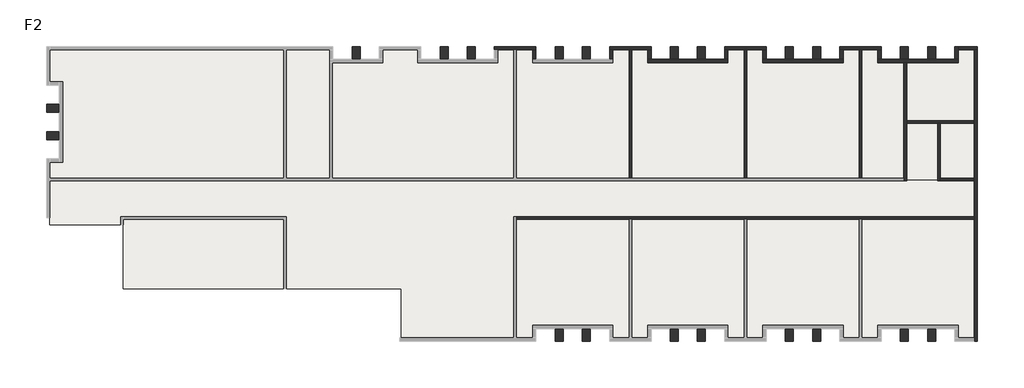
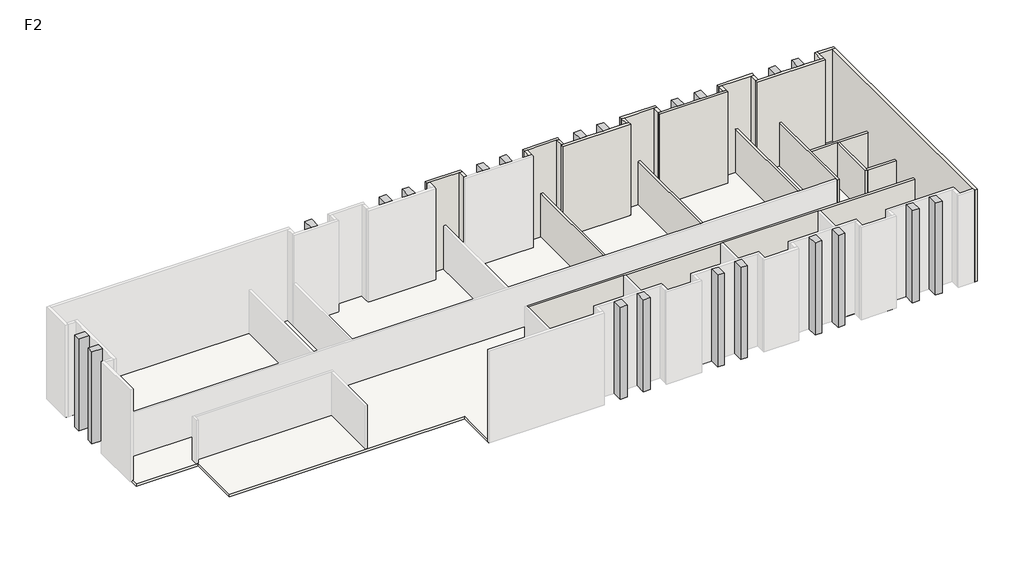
# One storey, part 2 of 2: 25 walls, 21 columns, 4 slabs.
"""IFC4 building model written with IfcOpenShell, lengths in millimetres."""

from ifc_helpers import new_model, si_unit, frame, origin, place, context, project, spatial, polyline, outline, extrude, faceted_brep, element, save

model = new_model("IFC4")

# Units and contexts
model_context = context("Model", 3, world=origin())
ifc_project = project(units=[si_unit("LENGTHUNIT", "METRE", prefix="MILLI")], contexts=[model_context])

# Site, building, storey
site = spatial("IfcSite", under=ifc_project)
building = spatial("IfcBuilding", under=site)
storey = spatial("IfcBuildingStorey", under=building, Name="F2", Elevation=3600.0)

# Columns
placement = place(None, origin())
element("IfcColumn", 1, ObjectType="矩形建筑柱 : 500 x 1000 mm", at=placement, inside=storey, context=model_context, shape_type="SweptSolid", body=[
    extrude(outline(polyline([(-27230.2182017, -7281.7926211), (-27230.2182017, -6781.7926211), (-26440.2182017, -6781.7926211), (-26440.2182017, -7281.7926211), (-27230.2182017, -7281.7926211)])), frame((0.0, 0.0, 3600.0), z_axis=(0.0, 0.0, 1.0), x_axis=(1.0, 0.0, 0.0)), (0.0, 0.0, 1.0), 7200.0),
])
element("IfcColumn", 2, ObjectType="矩形建筑柱 : 500 x 1000 mm", at=placement, inside=storey, context=model_context, shape_type="SweptSolid", body=[
    extrude(outline(polyline([(-27230.2182017, -8981.7926211), (-27230.2182017, -8481.7926211), (-26440.2182017, -8481.7926211), (-26440.2182017, -8981.7926211), (-27230.2182017, -8981.7926211)])), frame((0.0, 0.0, 3600.0), z_axis=(0.0, 0.0, 1.0), x_axis=(1.0, 0.0, 0.0)), (0.0, 0.0, 1.0), 7200.0),
])
element("IfcColumn", 3, ObjectType="矩形建筑柱 : 500 x 1000 mm", at=placement, inside=storey, context=model_context, shape_type="SweptSolid", body=[
    extrude(outline(polyline([(26184.7817983, -3166.7926211), (26684.7817983, -3166.7926211), (26684.7817983, -3956.7926211), (26184.7817983, -3956.7926211), (26184.7817983, -3166.7926211)])), frame((0.0, 0.0, 3600.0), z_axis=(0.0, 0.0, 1.0), x_axis=(1.0, 0.0, 0.0)), (0.0, 0.0, 1.0), 7200.0),
])
element("IfcColumn", 4, ObjectType="矩形建筑柱 : 500 x 1000 mm", at=placement, inside=storey, context=model_context, shape_type="SweptSolid", body=[
    extrude(outline(polyline([(27884.7817983, -3166.7926211), (28384.7817983, -3166.7926211), (28384.7817983, -3956.7926211), (27884.7817983, -3956.7926211), (27884.7817983, -3166.7926211)])), frame((0.0, 0.0, 3600.0), z_axis=(0.0, 0.0, 1.0), x_axis=(1.0, 0.0, 0.0)), (0.0, 0.0, 1.0), 7200.0),
])
element("IfcColumn", 5, ObjectType="矩形建筑柱 : 500 x 1000 mm", at=placement, inside=storey, context=model_context, shape_type="SweptSolid", body=[
    extrude(outline(polyline([(18984.7817983, -3166.7926211), (19484.7817983, -3166.7926211), (19484.7817983, -3956.7926211), (18984.7817983, -3956.7926211), (18984.7817983, -3166.7926211)])), frame((0.0, 0.0, 3600.0), z_axis=(0.0, 0.0, 1.0), x_axis=(1.0, 0.0, 0.0)), (0.0, 0.0, 1.0), 7200.0),
])
element("IfcColumn", 6, ObjectType="矩形建筑柱 : 500 x 1000 mm", at=placement, inside=storey, context=model_context, shape_type="SweptSolid", body=[
    extrude(outline(polyline([(20684.7817983, -3166.7926211), (21184.7817983, -3166.7926211), (21184.7817983, -3956.7926211), (20684.7817983, -3956.7926211), (20684.7817983, -3166.7926211)])), frame((0.0, 0.0, 3600.0), z_axis=(0.0, 0.0, 1.0), x_axis=(1.0, 0.0, 0.0)), (0.0, 0.0, 1.0), 7200.0),
])
element("IfcColumn", 7, ObjectType="矩形建筑柱 : 500 x 1000 mm", at=placement, inside=storey, context=model_context, shape_type="SweptSolid", body=[
    extrude(outline(polyline([(11784.7817983, -3166.7926211), (12284.7817983, -3166.7926211), (12284.7817983, -3956.7926211), (11784.7817983, -3956.7926211), (11784.7817983, -3166.7926211)])), frame((0.0, 0.0, 3600.0), z_axis=(0.0, 0.0, 1.0), x_axis=(1.0, 0.0, 0.0)), (0.0, 0.0, 1.0), 7200.0),
])
element("IfcColumn", 8, ObjectType="矩形建筑柱 : 500 x 1000 mm", at=placement, inside=storey, context=model_context, shape_type="SweptSolid", body=[
    extrude(outline(polyline([(13484.7817983, -3166.7926211), (13984.7817983, -3166.7926211), (13984.7817983, -3956.7926211), (13484.7817983, -3956.7926211), (13484.7817983, -3166.7926211)])), frame((0.0, 0.0, 3600.0), z_axis=(0.0, 0.0, 1.0), x_axis=(1.0, 0.0, 0.0)), (0.0, 0.0, 1.0), 7200.0),
])
element("IfcColumn", 9, ObjectType="矩形建筑柱 : 500 x 1000 mm", at=placement, inside=storey, context=model_context, shape_type="SweptSolid", body=[
    extrude(outline(polyline([(4584.7817983, -3166.7926211), (5084.7817983, -3166.7926211), (5084.7817983, -3956.7926211), (4584.7817983, -3956.7926211), (4584.7817983, -3166.7926211)])), frame((0.0, 0.0, 3600.0), z_axis=(0.0, 0.0, 1.0), x_axis=(1.0, 0.0, 0.0)), (0.0, 0.0, 1.0), 7200.0),
])
element("IfcColumn", 10, ObjectType="矩形建筑柱 : 500 x 1000 mm", at=placement, inside=storey, context=model_context, shape_type="SweptSolid", body=[
    extrude(outline(polyline([(6284.7817983, -3166.7926211), (6784.7817983, -3166.7926211), (6784.7817983, -3956.7926211), (6284.7817983, -3956.7926211), (6284.7817983, -3166.7926211)])), frame((0.0, 0.0, 3600.0), z_axis=(0.0, 0.0, 1.0), x_axis=(1.0, 0.0, 0.0)), (0.0, 0.0, 1.0), 7200.0),
])
element("IfcColumn", 11, ObjectType="矩形建筑柱 : 500 x 1000 mm", at=placement, inside=storey, context=model_context, shape_type="SweptSolid", body=[
    extrude(outline(polyline([(-2615.2182017, -3166.7926211), (-2115.2182017, -3166.7926211), (-2115.2182017, -3956.7926211), (-2615.2182017, -3956.7926211), (-2615.2182017, -3166.7926211)])), frame((0.0, 0.0, 3600.0), z_axis=(0.0, 0.0, 1.0), x_axis=(1.0, 0.0, 0.0)), (0.0, 0.0, 1.0), 7200.0),
])
element("IfcColumn", 12, ObjectType="矩形建筑柱 : 500 x 1000 mm", at=placement, inside=storey, context=model_context, shape_type="SweptSolid", body=[
    extrude(outline(polyline([(-915.2182017, -3166.7926211), (-415.2182017, -3166.7926211), (-415.2182017, -3956.7926211), (-915.2182017, -3956.7926211), (-915.2182017, -3166.7926211)])), frame((0.0, 0.0, 3600.0), z_axis=(0.0, 0.0, 1.0), x_axis=(1.0, 0.0, 0.0)), (0.0, 0.0, 1.0), 7200.0),
])
element("IfcColumn", 13, ObjectType="矩形建筑柱 : 500 x 1000 mm", at=placement, inside=storey, context=model_context, shape_type="SweptSolid", body=[
    extrude(outline(polyline([(-8115.2182017, -3166.7926211), (-7615.2182017, -3166.7926211), (-7615.2182017, -3956.7926211), (-8115.2182017, -3956.7926211), (-8115.2182017, -3166.7926211)])), frame((0.0, 0.0, 3600.0), z_axis=(0.0, 0.0, 1.0), x_axis=(1.0, 0.0, 0.0)), (0.0, 0.0, 1.0), 7200.0),
])
element("IfcColumn", 14, ObjectType="矩形建筑柱 : 500 x 1000 mm", at=placement, inside=storey, context=model_context, shape_type="SweptSolid", body=[
    extrude(outline(polyline([(26684.7817983, -21596.7926211), (26184.7817983, -21596.7926211), (26184.7817983, -20806.7926211), (26684.7817983, -20806.7926211), (26684.7817983, -21596.7926211)])), frame((0.0, 0.0, 3600.0), z_axis=(0.0, 0.0, 1.0), x_axis=(1.0, 0.0, 0.0)), (0.0, 0.0, 1.0), 7200.0),
])
element("IfcColumn", 15, ObjectType="矩形建筑柱 : 500 x 1000 mm", at=placement, inside=storey, context=model_context, shape_type="SweptSolid", body=[
    extrude(outline(polyline([(28384.7817983, -21596.7926211), (27884.7817983, -21596.7926211), (27884.7817983, -20806.7926211), (28384.7817983, -20806.7926211), (28384.7817983, -21596.7926211)])), frame((0.0, 0.0, 3600.0), z_axis=(0.0, 0.0, 1.0), x_axis=(1.0, 0.0, 0.0)), (0.0, 0.0, 1.0), 7200.0),
])
element("IfcColumn", 16, ObjectType="矩形建筑柱 : 500 x 1000 mm", at=placement, inside=storey, context=model_context, shape_type="SweptSolid", body=[
    extrude(outline(polyline([(19484.7817983, -21596.7926211), (18984.7817983, -21596.7926211), (18984.7817983, -20806.7926211), (19484.7817983, -20806.7926211), (19484.7817983, -21596.7926211)])), frame((0.0, 0.0, 3600.0), z_axis=(0.0, 0.0, 1.0), x_axis=(1.0, 0.0, 0.0)), (0.0, 0.0, 1.0), 7200.0),
])
element("IfcColumn", 17, ObjectType="矩形建筑柱 : 500 x 1000 mm", at=placement, inside=storey, context=model_context, shape_type="SweptSolid", body=[
    extrude(outline(polyline([(21184.7817983, -21596.7926211), (20684.7817983, -21596.7926211), (20684.7817983, -20806.7926211), (21184.7817983, -20806.7926211), (21184.7817983, -21596.7926211)])), frame((0.0, 0.0, 3600.0), z_axis=(0.0, 0.0, 1.0), x_axis=(1.0, 0.0, 0.0)), (0.0, 0.0, 1.0), 7200.0),
])
element("IfcColumn", 18, ObjectType="矩形建筑柱 : 500 x 1000 mm", at=placement, inside=storey, context=model_context, shape_type="SweptSolid", body=[
    extrude(outline(polyline([(12284.7817983, -21596.7926211), (11784.7817983, -21596.7926211), (11784.7817983, -20806.7926211), (12284.7817983, -20806.7926211), (12284.7817983, -21596.7926211)])), frame((0.0, 0.0, 3600.0), z_axis=(0.0, 0.0, 1.0), x_axis=(1.0, 0.0, 0.0)), (0.0, 0.0, 1.0), 7200.0),
])
element("IfcColumn", 19, ObjectType="矩形建筑柱 : 500 x 1000 mm", at=placement, inside=storey, context=model_context, shape_type="SweptSolid", body=[
    extrude(outline(polyline([(13984.7817983, -21596.7926211), (13484.7817983, -21596.7926211), (13484.7817983, -20806.7926211), (13984.7817983, -20806.7926211), (13984.7817983, -21596.7926211)])), frame((0.0, 0.0, 3600.0), z_axis=(0.0, 0.0, 1.0), x_axis=(1.0, 0.0, 0.0)), (0.0, 0.0, 1.0), 7200.0),
])
element("IfcColumn", 20, ObjectType="矩形建筑柱 : 500 x 1000 mm", at=placement, inside=storey, context=model_context, shape_type="SweptSolid", body=[
    extrude(outline(polyline([(5084.7817983, -21596.7926211), (4584.7817983, -21596.7926211), (4584.7817983, -20806.7926211), (5084.7817983, -20806.7926211), (5084.7817983, -21596.7926211)])), frame((0.0, 0.0, 3600.0), z_axis=(0.0, 0.0, 1.0), x_axis=(1.0, 0.0, 0.0)), (0.0, 0.0, 1.0), 7200.0),
])
element("IfcColumn", 21, ObjectType="矩形建筑柱 : 500 x 1000 mm", at=placement, inside=storey, context=model_context, shape_type="SweptSolid", body=[
    extrude(outline(polyline([(6784.7817983, -21596.7926211), (6284.7817983, -21596.7926211), (6284.7817983, -20806.7926211), (6784.7817983, -20806.7926211), (6784.7817983, -21596.7926211)])), frame((0.0, 0.0, 3600.0), z_axis=(0.0, 0.0, 1.0), x_axis=(1.0, 0.0, 0.0)), (0.0, 0.0, 1.0), 7200.0),
])

# Slabs
element("IfcSlab", 22, ObjectType="綜合樓-15cm-室內", at=placement, inside=storey, context=model_context, shape_type="SweptSolid", body=[
    extrude(outline(polyline([(-27040.2182017, -14306.7926211), (-27040.2182017, -10371.7926211), (-26250.2182017, -10371.7926211), (-26250.2182017, -5391.7926211), (-27040.2182017, -5391.7926211), (-27040.2182017, -3356.7926211), (-9505.2182017, -3356.7926211), (-9505.2182017, -4146.7926211), (-6225.2182017, -4146.7926211), (-6225.2182017, -3356.7926211), (-4005.2182017, -3356.7926211), (-4005.2182017, -4146.7926211), (974.7817983, -4146.7926211), (974.7817983, -3356.7926211), (3194.7817983, -3356.7926211), (3194.7817983, -4146.7926211), (8174.7817983, -4146.7926211), (8174.7817983, -3356.7926211), (10394.7817983, -3356.7926211), (10394.7817983, -4146.7926211), (15374.7817983, -4146.7926211), (15374.7817983, -3356.7926211), (17594.7817983, -3356.7926211), (17594.7817983, -4146.7926211), (22574.7817983, -4146.7926211), (22574.7817983, -3356.7926211), (24794.7817983, -3356.7926211), (24794.7817983, -4146.7926211), (26424.7817983, -4146.7926211), (26424.7817983, -11541.7926211), (30809.7817983, -11541.7926211), (30809.7817983, -21406.7926211), (29774.7817983, -21406.7926211), (29774.7817983, -20616.7926211), (24794.7817983, -20616.7926211), (24794.7817983, -21406.7926211), (22574.7817983, -21406.7926211), (22574.7817983, -20616.7926211), (17594.7817983, -20616.7926211), (17594.7817983, -21406.7926211), (15374.7817983, -21406.7926211), (15374.7817983, -20616.7926211), (10394.7817983, -20616.7926211), (10394.7817983, -21406.7926211), (8174.7817983, -21406.7926211), (8174.7817983, -20616.7926211), (3194.7817983, -20616.7926211), (3194.7817983, -21406.7926211), (-5040.2182017, -21406.7926211), (-5040.2182017, -18306.7926211), (-22440.2182017, -18306.7926211), (-22440.2182017, -14306.7926211), (-27040.2182017, -14306.7926211)])), frame((0.0, 0.0, 3450.0), z_axis=(0.0, 0.0, 1.0), x_axis=(1.0, 0.0, 0.0)), (0.0, 0.0, 1.0), 200.0),
])
element("IfcSlab", 23, ObjectType="洗手間地版", at=placement, inside=storey, context=model_context, shape_type="SweptSolid", body=[
    extrude(outline(polyline([(28524.7817983, -7941.0130428), (28524.7817983, -11541.0130428), (26544.7817983, -11541.0130428), (26544.7817983, -7941.0130428), (28524.7817983, -7941.0130428)])), frame((0.0, 0.0, 3430.0), z_axis=(0.0, 0.0, 1.0), x_axis=(1.0, 0.0, 0.0)), (0.0, 0.0, 1.0), 200.0),
])
element("IfcSlab", 24, ObjectType="洗手間地版", at=placement, inside=storey, context=model_context, shape_type="SweptSolid", body=[
    extrude(outline(polyline([(28644.7817983, -7941.7926211), (30809.7817983, -7941.7926211), (30809.7817983, -11421.7926211), (28644.7817983, -11421.7926211), (28644.7817983, -7941.7926211)])), frame((0.0, 0.0, 3410.0), z_axis=(0.0, 0.0, 1.0), x_axis=(1.0, 0.0, 0.0)), (0.0, 0.0, 1.0), 200.0),
])
element("IfcSlab", 25, ObjectType="洗手間地版", at=placement, inside=storey, context=model_context, shape_type="SweptSolid", body=[
    extrude(outline(polyline([(29774.7817983, -4146.7926211), (29774.7817983, -3356.7926211), (30809.7817983, -3356.7926211), (30809.7817983, -7821.7926211), (26544.7817983, -7821.7926211), (26544.7817983, -4146.7926211), (29774.7817983, -4146.7926211)])), frame((0.0, 0.0, 3410.0), z_axis=(0.0, 0.0, 1.0), x_axis=(1.0, 0.0, 0.0)), (0.0, 0.0, 1.0), 200.0),
])

# Walls
element("IfcWall", 26, ObjectType="F2-F5-15cm-外牆", at=placement, inside=storey, context=model_context, shape_type="Brep", body=[
    faceted_brep([(30999.7817983, -21596.7926211, 3600.0), (30999.7817983, -3376.7926211, 3600.0), (30999.7817983, -3376.7926211, 10800.0), (30999.7817983, -21596.7926211, 10800.0), (30789.7817983, -21596.7926211, 3600.0), (30789.7817983, -21596.7926211, 10800.0), (30789.7817983, -21386.7926211, 10800.0), (30789.7817983, -3376.7926211, 10800.0), (30789.7817983, -3376.7926211, 3600.0), (30789.7817983, -7801.7926211, 3600.0), (30789.7817983, -7961.7926211, 3600.0), (30789.7817983, -11401.7926211, 3600.0), (30789.7817983, -11561.7926211, 3600.0), (30789.7817983, -13811.7926211, 3600.0), (30789.7817983, -13971.7926211, 3600.0), (30789.7817983, -21386.7926211, 3600.0)], [[[0, 1, 2, 3]], [[4, 5, 6, 7, 8, 9, 10, 11, 12, 13, 14, 15]], [[1, 0, 4, 15, 14, 13, 12, 11, 10, 9, 8]], [[3, 2, 7, 6, 5]], [[0, 3, 5, 4]], [[2, 1, 8, 7]]]),
])
element("IfcWall", 27, ObjectType="F2-F5-15cm-外牆", at=placement, inside=storey, context=model_context, shape_type="Brep", body=[
    faceted_brep([(24774.7817983, -4166.7926211, 3600.0), (26404.7817983, -4166.7926211, 3600.0), (26564.7817983, -4166.7926211, 3600.0), (29794.7817983, -4166.7926211, 3600.0), (29794.7817983, -4166.7926211, 10800.0), (24774.7817983, -4166.7926211, 10800.0), (24774.7817983, -3956.7926211, 3600.0), (24774.7817983, -3956.7926211, 10800.0), (24984.7817983, -3956.7926211, 10800.0), (26184.7817983, -3956.7926211, 10800.0), (26684.7817983, -3956.7926211, 10800.0), (27884.7817983, -3956.7926211, 10800.0), (28384.7817983, -3956.7926211, 10800.0), (29584.7817983, -3956.7926211, 10800.0), (29794.7817983, -3956.7926211, 10800.0), (29794.7817983, -3956.7926211, 3600.0), (29584.7817983, -3956.7926211, 3600.0), (28384.7817983, -3956.7926211, 3600.0), (27884.7817983, -3956.7926211, 3600.0), (26684.7817983, -3956.7926211, 3600.0), (26184.7817983, -3956.7926211, 3600.0), (24984.7817983, -3956.7926211, 3600.0)], [[[0, 1, 2, 3, 4, 5]], [[6, 7, 8, 9, 10, 11, 12, 13, 14, 15, 16, 17, 18, 19, 20, 21]], [[3, 2, 1, 0, 6, 21, 20, 19, 18, 17, 16, 15]], [[5, 4, 14, 13, 12, 11, 10, 9, 8, 7]], [[4, 3, 15, 14]], [[0, 5, 7, 6]]]),
])
element("IfcWall", 28, ObjectType="F2-F5-15cm-外牆", at=placement, inside=storey, context=model_context, shape_type="SweptSolid", body=[
    extrude(outline(polyline([(24774.7817983, -3956.7926211), (24774.7817983, -3376.7926211), (24984.7817983, -3376.7926211), (24984.7817983, -3956.7926211), (24774.7817983, -3956.7926211)])), frame((0.0, 0.0, 3600.0), z_axis=(0.0, 0.0, 1.0), x_axis=(1.0, 0.0, 0.0)), (0.0, 0.0, 1.0), 7200.0),
])
element("IfcWall", 29, ObjectType="F2-F5-15cm-外牆", at=placement, inside=storey, context=model_context, shape_type="Brep", body=[
    faceted_brep([(29794.7817983, -3956.7926211, 3600.0), (29794.7817983, -3376.7926211, 3600.0), (29794.7817983, -3166.7926211, 3600.0), (29794.7817983, -3166.7926211, 10800.0), (29794.7817983, -3376.7926211, 10800.0), (29794.7817983, -3956.7926211, 10800.0), (29584.7817983, -3956.7926211, 3600.0), (29584.7817983, -3956.7926211, 10800.0), (29584.7817983, -3166.7926211, 10800.0), (29584.7817983, -3166.7926211, 3600.0)], [[[0, 1, 2, 3, 4, 5]], [[6, 7, 8, 9]], [[2, 1, 0, 6, 9]], [[5, 4, 3, 8, 7]], [[0, 5, 7, 6]], [[3, 2, 9, 8]]]),
])
element("IfcWall", 30, ObjectType="F2-F5-15cm-外牆", at=placement, inside=storey, context=model_context, shape_type="Brep", body=[
    faceted_brep([(29794.7817983, -3376.7926211, 3600.0), (30789.7817983, -3376.7926211, 3600.0), (30999.7817983, -3376.7926211, 3600.0), (30999.7817983, -3376.7926211, 10800.0), (30789.7817983, -3376.7926211, 10800.0), (29794.7817983, -3376.7926211, 10800.0), (29794.7817983, -3166.7926211, 3600.0), (29794.7817983, -3166.7926211, 10800.0), (30999.7817983, -3166.7926211, 10800.0), (30999.7817983, -3166.7926211, 3600.0)], [[[0, 1, 2, 3, 4, 5]], [[6, 7, 8, 9]], [[2, 1, 0, 6, 9]], [[5, 4, 3, 8, 7]], [[3, 2, 9, 8]], [[0, 5, 7, 6]]]),
])
element("IfcWall", 31, ObjectType="F2-F5-15cm-外牆", at=placement, inside=storey, context=model_context, shape_type="Brep", body=[
    faceted_brep([(17574.7817983, -4166.7926211, 3600.0), (22594.7817983, -4166.7926211, 3600.0), (22594.7817983, -4166.7926211, 10800.0), (17574.7817983, -4166.7926211, 10800.0), (17574.7817983, -3956.7926211, 3600.0), (17574.7817983, -3956.7926211, 10800.0), (17784.7817983, -3956.7926211, 10800.0), (18984.7817983, -3956.7926211, 10800.0), (19484.7817983, -3956.7926211, 10800.0), (20684.7817983, -3956.7926211, 10800.0), (21184.7817983, -3956.7926211, 10800.0), (22384.7817983, -3956.7926211, 10800.0), (22594.7817983, -3956.7926211, 10800.0), (22594.7817983, -3956.7926211, 3600.0), (22384.7817983, -3956.7926211, 3600.0), (21184.7817983, -3956.7926211, 3600.0), (20684.7817983, -3956.7926211, 3600.0), (19484.7817983, -3956.7926211, 3600.0), (18984.7817983, -3956.7926211, 3600.0), (17784.7817983, -3956.7926211, 3600.0)], [[[0, 1, 2, 3]], [[4, 5, 6, 7, 8, 9, 10, 11, 12, 13, 14, 15, 16, 17, 18, 19]], [[1, 0, 4, 19, 18, 17, 16, 15, 14, 13]], [[3, 2, 12, 11, 10, 9, 8, 7, 6, 5]], [[2, 1, 13, 12]], [[0, 3, 5, 4]]]),
])
element("IfcWall", 32, ObjectType="F2-F5-15cm-外牆", at=placement, inside=storey, context=model_context, shape_type="SweptSolid", body=[
    extrude(outline(polyline([(17574.7817983, -3956.7926211), (17574.7817983, -3376.7926211), (17784.7817983, -3376.7926211), (17784.7817983, -3956.7926211), (17574.7817983, -3956.7926211)])), frame((0.0, 0.0, 3600.0), z_axis=(0.0, 0.0, 1.0), x_axis=(1.0, 0.0, 0.0)), (0.0, 0.0, 1.0), 7200.0),
])
element("IfcWall", 33, ObjectType="F2-F5-15cm-外牆", at=placement, inside=storey, context=model_context, shape_type="SweptSolid", body=[
    extrude(outline(polyline([(22594.7817983, -3376.7926211), (22594.7817983, -3956.7926211), (22384.7817983, -3956.7926211), (22384.7817983, -3376.7926211), (22594.7817983, -3376.7926211)])), frame((0.0, 0.0, 3600.0), z_axis=(0.0, 0.0, 1.0), x_axis=(1.0, 0.0, 0.0)), (0.0, 0.0, 1.0), 7200.0),
])
element("IfcWall", 34, ObjectType="F2-F5-15cm-外牆", at=placement, inside=storey, context=model_context, shape_type="Brep", body=[
    faceted_brep([(10374.7817983, -4166.7926211, 3600.0), (15394.7817983, -4166.7926211, 3600.0), (15394.7817983, -4166.7926211, 10800.0), (10374.7817983, -4166.7926211, 10800.0), (10374.7817983, -3956.7926211, 3600.0), (10374.7817983, -3956.7926211, 10800.0), (10584.7817983, -3956.7926211, 10800.0), (11784.7817983, -3956.7926211, 10800.0), (12284.7817983, -3956.7926211, 10800.0), (13484.7817983, -3956.7926211, 10800.0), (13984.7817983, -3956.7926211, 10800.0), (15184.7817983, -3956.7926211, 10800.0), (15394.7817983, -3956.7926211, 10800.0), (15394.7817983, -3956.7926211, 3600.0), (15184.7817983, -3956.7926211, 3600.0), (13984.7817983, -3956.7926211, 3600.0), (13484.7817983, -3956.7926211, 3600.0), (12284.7817983, -3956.7926211, 3600.0), (11784.7817983, -3956.7926211, 3600.0), (10584.7817983, -3956.7926211, 3600.0)], [[[0, 1, 2, 3]], [[4, 5, 6, 7, 8, 9, 10, 11, 12, 13, 14, 15, 16, 17, 18, 19]], [[1, 0, 4, 19, 18, 17, 16, 15, 14, 13]], [[3, 2, 12, 11, 10, 9, 8, 7, 6, 5]], [[0, 3, 5, 4]], [[2, 1, 13, 12]]]),
])
element("IfcWall", 35, ObjectType="F2-F5-15cm-外牆", at=placement, inside=storey, context=model_context, shape_type="SweptSolid", body=[
    extrude(outline(polyline([(10374.7817983, -3956.7926211), (10374.7817983, -3376.7926211), (10584.7817983, -3376.7926211), (10584.7817983, -3956.7926211), (10374.7817983, -3956.7926211)])), frame((0.0, 0.0, 3600.0), z_axis=(0.0, 0.0, 1.0), x_axis=(1.0, 0.0, 0.0)), (0.0, 0.0, 1.0), 7200.0),
])
element("IfcWall", 36, ObjectType="F2-F5-15cm-外牆", at=placement, inside=storey, context=model_context, shape_type="SweptSolid", body=[
    extrude(outline(polyline([(15394.7817983, -3376.7926211), (15394.7817983, -3956.7926211), (15184.7817983, -3956.7926211), (15184.7817983, -3376.7926211), (15394.7817983, -3376.7926211)])), frame((0.0, 0.0, 3600.0), z_axis=(0.0, 0.0, 1.0), x_axis=(1.0, 0.0, 0.0)), (0.0, 0.0, 1.0), 7200.0),
])
element("IfcWall", 37, ObjectType="F2-F5-15cm-外牆", at=placement, inside=storey, context=model_context, shape_type="SweptSolid", body=[
    extrude(outline(polyline([(3174.7817983, -3956.7926211), (3174.7817983, -3376.7926211), (3384.7817983, -3376.7926211), (3384.7817983, -3956.7926211), (3174.7817983, -3956.7926211)])), frame((0.0, 0.0, 3600.0), z_axis=(0.0, 0.0, 1.0), x_axis=(1.0, 0.0, 0.0)), (0.0, 0.0, 1.0), 7200.0),
])
element("IfcWall", 38, ObjectType="F2-F5-15cm-外牆", at=placement, inside=storey, context=model_context, shape_type="SweptSolid", body=[
    extrude(outline(polyline([(8194.7817983, -3376.7926211), (8194.7817983, -3956.7926211), (7984.7817983, -3956.7926211), (7984.7817983, -3376.7926211), (8194.7817983, -3376.7926211)])), frame((0.0, 0.0, 3600.0), z_axis=(0.0, 0.0, 1.0), x_axis=(1.0, 0.0, 0.0)), (0.0, 0.0, 1.0), 7200.0),
])
element("IfcWall", 39, ObjectType="F2-F5-15cm-外牆", at=placement, inside=storey, context=model_context, shape_type="Brep", body=[
    faceted_brep([(22384.7817983, -3376.7926211, 3600.0), (22594.7817983, -3376.7926211, 3600.0), (24774.7817983, -3376.7926211, 3600.0), (24984.7817983, -3376.7926211, 3600.0), (24984.7817983, -3376.7926211, 10800.0), (24774.7817983, -3376.7926211, 10800.0), (22594.7817983, -3376.7926211, 10800.0), (22384.7817983, -3376.7926211, 10800.0), (22384.7817983, -3166.7926211, 3600.0), (22384.7817983, -3166.7926211, 10800.0), (24984.7817983, -3166.7926211, 10800.0), (24984.7817983, -3166.7926211, 3600.0)], [[[0, 1, 2, 3, 4, 5, 6, 7]], [[8, 9, 10, 11]], [[3, 2, 1, 0, 8, 11]], [[7, 6, 5, 4, 10, 9]], [[4, 3, 11, 10]], [[0, 7, 9, 8]]]),
])
element("IfcWall", 40, ObjectType="F2-F5-15cm-外牆", at=placement, inside=storey, context=model_context, shape_type="Brep", body=[
    faceted_brep([(15184.7817983, -3376.7926211, 3600.0), (15394.7817983, -3376.7926211, 3600.0), (16404.7817983, -3376.7926211, 3600.0), (16564.7817983, -3376.7926211, 3600.0), (17574.7817983, -3376.7926211, 3600.0), (17784.7817983, -3376.7926211, 3600.0), (17784.7817983, -3376.7926211, 10800.0), (17574.7817983, -3376.7926211, 10800.0), (15394.7817983, -3376.7926211, 10800.0), (15184.7817983, -3376.7926211, 10800.0), (15184.7817983, -3166.7926211, 3600.0), (15184.7817983, -3166.7926211, 10800.0), (17784.7817983, -3166.7926211, 10800.0), (17784.7817983, -3166.7926211, 3600.0)], [[[0, 1, 2, 3, 4, 5, 6, 7, 8, 9]], [[10, 11, 12, 13]], [[5, 4, 3, 2, 1, 0, 10, 13]], [[9, 8, 7, 6, 12, 11]], [[6, 5, 13, 12]], [[0, 9, 11, 10]]]),
])
element("IfcWall", 41, ObjectType="F2-F5-15cm-外牆", at=placement, inside=storey, context=model_context, shape_type="Brep", body=[
    faceted_brep([(7984.7817983, -3376.7926211, 3600.0), (8194.7817983, -3376.7926211, 3600.0), (9204.7817983, -3376.7926211, 3600.0), (9364.7817983, -3376.7926211, 3600.0), (10374.7817983, -3376.7926211, 3600.0), (10584.7817983, -3376.7926211, 3600.0), (10584.7817983, -3376.7926211, 10800.0), (10374.7817983, -3376.7926211, 10800.0), (8194.7817983, -3376.7926211, 10800.0), (7984.7817983, -3376.7926211, 10800.0), (7984.7817983, -3166.7926211, 3600.0), (7984.7817983, -3166.7926211, 10800.0), (10584.7817983, -3166.7926211, 10800.0), (10584.7817983, -3166.7926211, 3600.0)], [[[0, 1, 2, 3, 4, 5, 6, 7, 8, 9]], [[10, 11, 12, 13]], [[5, 4, 3, 2, 1, 0, 10, 13]], [[9, 8, 7, 6, 12, 11]], [[6, 5, 13, 12]], [[0, 9, 11, 10]]]),
])
element("IfcWall", 42, ObjectType="F2-F5-15cm-外牆", at=placement, inside=storey, context=model_context, shape_type="Brep", body=[
    faceted_brep([(784.7817983, -3376.7926211, 3600.0), (994.7817983, -3376.7926211, 3600.0), (2004.7817983, -3376.7926211, 3600.0), (2164.7817983, -3376.7926211, 3600.0), (3174.7817983, -3376.7926211, 3600.0), (3384.7817983, -3376.7926211, 3600.0), (3384.7817983, -3376.7926211, 10800.0), (3174.7817983, -3376.7926211, 10800.0), (994.7817983, -3376.7926211, 10800.0), (784.7817983, -3376.7926211, 10800.0), (784.7817983, -3166.7926211, 3600.0), (784.7817983, -3166.7926211, 10800.0), (3384.7817983, -3166.7926211, 10800.0), (3384.7817983, -3166.7926211, 3600.0)], [[[0, 1, 2, 3, 4, 5, 6, 7, 8, 9]], [[10, 11, 12, 13]], [[5, 4, 3, 2, 1, 0, 10, 13]], [[9, 8, 7, 6, 12, 11]], [[6, 5, 13, 12]], [[0, 9, 11, 10]]]),
])
element("IfcWall", 43, ObjectType="F1-12cm-內牆", at=placement, inside=storey, context=model_context, shape_type="Brep", body=[
    faceted_brep([(26404.7817983, -4166.7926211, 3600.0), (26404.7817983, -11401.7926211, 3600.0), (26404.7817983, -11561.7926211, 3600.0), (26404.7817983, -11561.7926211, 7050.0), (26404.7817983, -11401.7926211, 7050.0), (26404.7817983, -4166.7926211, 7050.0), (26564.7817983, -4166.7926211, 3600.0), (26564.7817983, -4166.7926211, 7050.0), (26564.7817983, -7801.7926211, 7050.0), (26564.7817983, -7961.7926211, 7050.0), (26564.7817983, -11561.7926211, 7050.0), (26564.7817983, -11561.7926211, 3600.0), (26564.7817983, -7961.7926211, 3600.0), (26564.7817983, -7801.7926211, 3600.0)], [[[0, 1, 2, 3, 4, 5]], [[6, 7, 8, 9, 10, 11, 12, 13]], [[2, 1, 0, 6, 13, 12, 11]], [[5, 4, 3, 10, 9, 8, 7]], [[0, 5, 7, 6]], [[3, 2, 11, 10]]]),
])
element("IfcWall", 44, ObjectType="F1-12cm-內牆", at=placement, inside=storey, context=model_context, shape_type="Brep", body=[
    faceted_brep([(30789.7817983, -7801.7926211, 3600.0), (26564.7817983, -7801.7926211, 3600.0), (26564.7817983, -7801.7926211, 7050.0), (30789.7817983, -7801.7926211, 7050.0), (30789.7817983, -7961.7926211, 3600.0), (30789.7817983, -7961.7926211, 7050.0), (28664.7817983, -7961.7926211, 7050.0), (28504.7817983, -7961.7926211, 7050.0), (26564.7817983, -7961.7926211, 7050.0), (26564.7817983, -7961.7926211, 3600.0), (28504.7817983, -7961.7926211, 3600.0), (28664.7817983, -7961.7926211, 3600.0)], [[[0, 1, 2, 3]], [[4, 5, 6, 7, 8, 9, 10, 11]], [[1, 0, 4, 11, 10, 9]], [[3, 2, 8, 7, 6, 5]], [[2, 1, 9, 8]], [[0, 3, 5, 4]]]),
])
element("IfcWall", 45, ObjectType="F1-12cm-內牆", at=placement, inside=storey, context=model_context, shape_type="Brep", body=[
    faceted_brep([(28504.7817983, -7961.7926211, 3600.0), (28504.7817983, -11561.7926211, 3600.0), (28504.7817983, -11561.7926211, 7050.0), (28504.7817983, -7961.7926211, 7050.0), (28664.7817983, -7961.7926211, 3600.0), (28664.7817983, -7961.7926211, 7050.0), (28664.7817983, -11401.7926211, 7050.0), (28664.7817983, -11561.7926211, 7050.0), (28664.7817983, -11561.7926211, 3600.0), (28664.7817983, -11401.7926211, 3600.0)], [[[0, 1, 2, 3]], [[4, 5, 6, 7, 8, 9]], [[1, 0, 4, 9, 8]], [[3, 2, 7, 6, 5]], [[0, 3, 5, 4]], [[2, 1, 8, 7]]]),
])
element("IfcWall", 46, ObjectType="F1-12cm-內牆", at=placement, inside=storey, context=model_context, shape_type="SweptSolid", body=[
    extrude(outline(polyline([(30789.7817983, -11561.7926211), (28664.7817983, -11561.7926211), (28664.7817983, -11401.7926211), (30789.7817983, -11401.7926211), (30789.7817983, -11561.7926211)])), frame((0.0, 0.0, 3600.0), z_axis=(0.0, 0.0, 1.0), x_axis=(1.0, 0.0, 0.0)), (0.0, 0.0, 1.0), 3450.0),
])
element("IfcWall", 47, ObjectType="F1-12cm-內牆", at=placement, inside=storey, context=model_context, shape_type="SweptSolid", body=[
    extrude(outline(polyline([(23764.7817983, -3381.7926211), (23764.7817983, -11401.7926211), (23604.7817983, -11401.7926211), (23604.7817983, -3381.7926211), (23764.7817983, -3381.7926211)])), frame((0.0, 0.0, 3600.0), z_axis=(0.0, 0.0, 1.0), x_axis=(1.0, 0.0, 0.0)), (0.0, 0.0, 1.0), 3450.0),
])
element("IfcWall", 48, ObjectType="F1-12cm-內牆", at=placement, inside=storey, context=model_context, shape_type="SweptSolid", body=[
    extrude(outline(polyline([(16404.7817983, -11401.7926211), (16404.7817983, -3376.7926211), (16564.7817983, -3376.7926211), (16564.7817983, -11401.7926211), (16404.7817983, -11401.7926211)])), frame((0.0, 0.0, 3600.0), z_axis=(0.0, 0.0, 1.0), x_axis=(1.0, 0.0, 0.0)), (0.0, 0.0, 1.0), 3450.0),
])
element("IfcWall", 49, ObjectType="F1-12cm-內牆", at=placement, inside=storey, context=model_context, shape_type="SweptSolid", body=[
    extrude(outline(polyline([(9204.7817983, -11401.7926211), (9204.7817983, -3376.7926211), (9364.7817983, -3376.7926211), (9364.7817983, -11401.7926211), (9204.7817983, -11401.7926211)])), frame((0.0, 0.0, 3600.0), z_axis=(0.0, 0.0, 1.0), x_axis=(1.0, 0.0, 0.0)), (0.0, 0.0, 1.0), 3450.0),
])
element("IfcWall", 50, ObjectType="F1-12cm-內牆", at=placement, inside=storey, context=model_context, shape_type="Brep", body=[
    faceted_brep([(2164.7817983, -13971.7926211, 3600.0), (9204.7817983, -13971.7926211, 3600.0), (9364.7817983, -13971.7926211, 3600.0), (16404.7817983, -13971.7926211, 3600.0), (16564.7817983, -13971.7926211, 3600.0), (23604.7817983, -13971.7926211, 3600.0), (23764.7817983, -13971.7926211, 3600.0), (30789.7817983, -13971.7926211, 3600.0), (30789.7817983, -13971.7926211, 7050.0), (23764.7817983, -13971.7926211, 7050.0), (23604.7817983, -13971.7926211, 7050.0), (16564.7817983, -13971.7926211, 7050.0), (16404.7817983, -13971.7926211, 7050.0), (9364.7817983, -13971.7926211, 7050.0), (9204.7817983, -13971.7926211, 7050.0), (2164.7817983, -13971.7926211, 7050.0), (2164.7817983, -13811.7926211, 3600.0), (2164.7817983, -13811.7926211, 7050.0), (30789.7817983, -13811.7926211, 7050.0), (30789.7817983, -13811.7926211, 3600.0)], [[[0, 1, 2, 3, 4, 5, 6, 7, 8, 9, 10, 11, 12, 13, 14, 15]], [[16, 17, 18, 19]], [[7, 6, 5, 4, 3, 2, 1, 0, 16, 19]], [[15, 14, 13, 12, 11, 10, 9, 8, 18, 17]], [[0, 15, 17, 16]], [[8, 7, 19, 18]]]),
])

save(model, "model.ifc")
